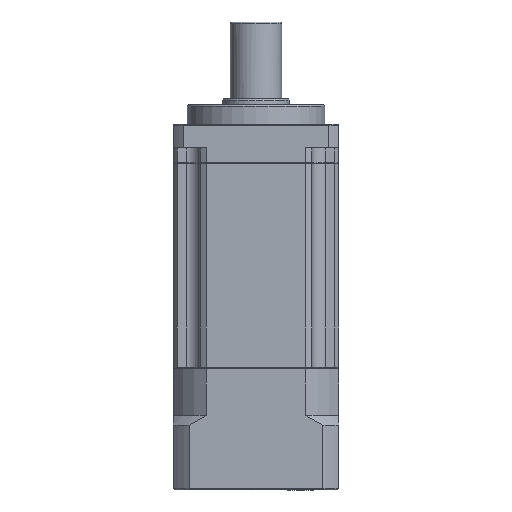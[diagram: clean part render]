
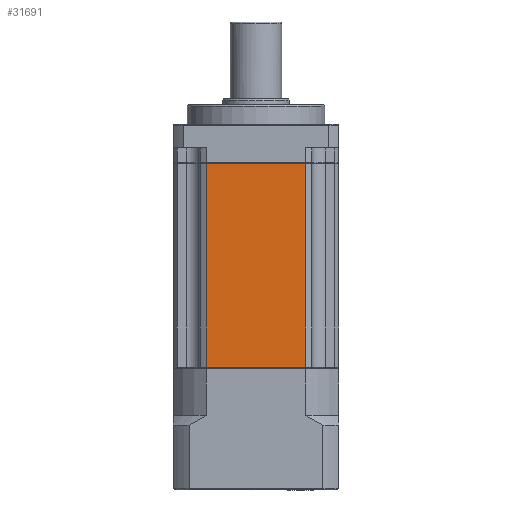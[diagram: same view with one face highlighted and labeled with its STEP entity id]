
A CAD part, front view. The second image highlights one B-rep face of the part: STEP entity #31691.
In plain terms, the highlighted planar face has unit normal (0, -1, 0).
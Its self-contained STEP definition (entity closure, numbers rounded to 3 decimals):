
#3233 = LINE ( 'NONE', #46910, #80885 ) ;
#4001 = CARTESIAN_POINT ( 'NONE',  ( 20.722, 10.281, 23.697 ) ) ;
#4547 = DIRECTION ( 'NONE',  ( -1., 0., 0. ) ) ;
#5096 = VECTOR ( 'NONE', #4547, 1000. ) ;
#6033 = CARTESIAN_POINT ( 'NONE',  ( 45.961, 10.281, 75.697 ) ) ;
#7816 = EDGE_LOOP ( 'NONE', ( #19528, #53376, #47032, #35510 ) ) ;
#8268 = DIRECTION ( 'NONE',  ( 0., 0., -1. ) ) ;
#12011 = CARTESIAN_POINT ( 'NONE',  ( 19.164, 10.281, 23.697 ) ) ;
#13947 = EDGE_CURVE ( 'NONE', #74558, #79425, #61076, .T. ) ;
#18493 = EDGE_CURVE ( 'NONE', #74728, #74558, #82787, .T. ) ;
#19528 = ORIENTED_EDGE ( 'NONE', *, *, #18493, .F. ) ;
#19798 = DIRECTION ( 'NONE',  ( -1., 0., 0. ) ) ;
#31691 = ADVANCED_FACE ( 'NONE', ( #76427 ), #73746, .F. ) ;
#32350 = CARTESIAN_POINT ( 'NONE',  ( 45.961, 10.281, 23.947 ) ) ;
#35510 = ORIENTED_EDGE ( 'NONE', *, *, #13947, .F. ) ;
#40299 = CARTESIAN_POINT ( 'NONE',  ( 19.164, 10.281, 75.697 ) ) ;
#46910 = CARTESIAN_POINT ( 'NONE',  ( 45.961, 10.281, 23.697 ) ) ;
#47032 = ORIENTED_EDGE ( 'NONE', *, *, #48162, .F. ) ;
#48162 = EDGE_CURVE ( 'NONE', #79425, #68205, #52389, .T. ) ;
#51010 = CARTESIAN_POINT ( 'NONE',  ( 51.019, 10.281, 23.947 ) ) ;
#52389 = LINE ( 'NONE', #40299, #93727 ) ;
#53376 = ORIENTED_EDGE ( 'NONE', *, *, #56245, .F. ) ;
#56245 = EDGE_CURVE ( 'NONE', #68205, #74728, #3233, .T. ) ;
#56264 = DIRECTION ( 'NONE',  ( 1., 0., 0. ) ) ;
#60500 = CARTESIAN_POINT ( 'NONE',  ( 20.722, 10.281, 75.697 ) ) ;
#61076 = LINE ( 'NONE', #4001, #100068 ) ;
#66267 = DIRECTION ( 'NONE',  ( 0., 1., 0. ) ) ;
#68205 = VERTEX_POINT ( 'NONE', #6033 ) ;
#69047 = CARTESIAN_POINT ( 'NONE',  ( 20.722, 10.281, 23.947 ) ) ;
#73746 = PLANE ( 'NONE',  #91661 ) ;
#74558 = VERTEX_POINT ( 'NONE', #69047 ) ;
#74728 = VERTEX_POINT ( 'NONE', #32350 ) ;
#76427 = FACE_OUTER_BOUND ( 'NONE', #7816, .T. ) ;
#79425 = VERTEX_POINT ( 'NONE', #60500 ) ;
#80885 = VECTOR ( 'NONE', #8268, 1000. ) ;
#82787 = LINE ( 'NONE', #51010, #5096 ) ;
#91661 = AXIS2_PLACEMENT_3D ( 'NONE', #12011, #66267, #19798 ) ;
#93727 = VECTOR ( 'NONE', #56264, 1000. ) ;
#97009 = DIRECTION ( 'NONE',  ( 0., 0., 1. ) ) ;
#100068 = VECTOR ( 'NONE', #97009, 1000. ) ;
